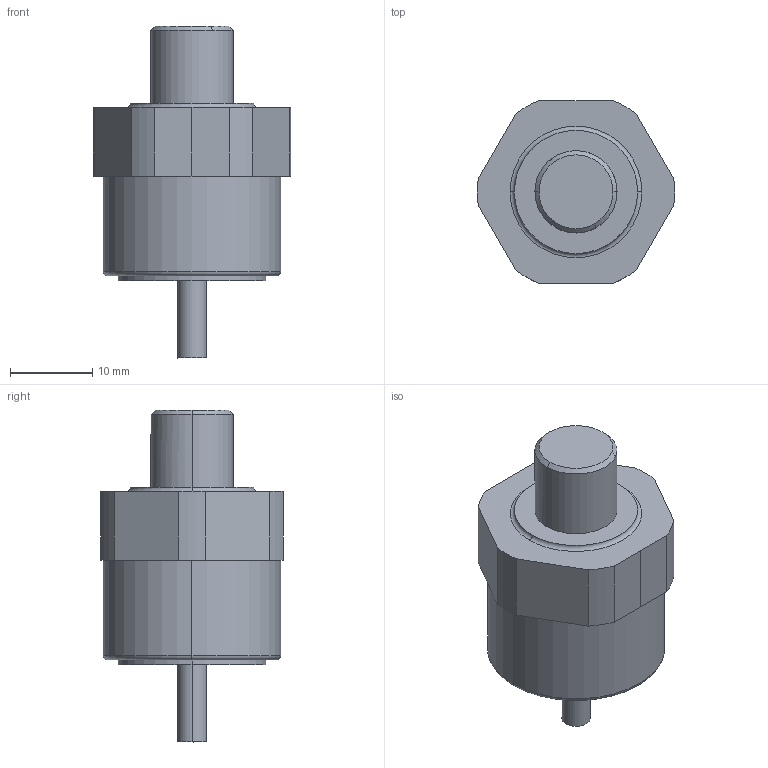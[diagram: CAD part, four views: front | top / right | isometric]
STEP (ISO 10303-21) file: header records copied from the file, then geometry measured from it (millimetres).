
FILE_DESCRIPTION(('3DEXPERIENCE STEP','CAx-IF Rec.Pracs.--- Model Styling and Organization---1.5--- 2016-08-15','CAx-IF Rec.Pracs.---Supplemental Geometry---1.0---2011-11-01','CAx-IF Rec.Pracs.--- Composite Materials ---3.4---2017-06-13','CAx-IF Rec.Pracs.---Tessellated 3D Geometry---1.0---2015-12-17'),'2;1');
FILE_NAME('\\?\D:\School\CarTech\CTU.25\Tutorials\Model\OEM\BRK_PRS_Sensor.stp','2024-09-26T02:45:08+00:00',('none'),('none'),'3DEXPERIENCE Platform3DEXPERIENCE R2024x HotFix 4.24','3DEXPERIENCE Platform STEP AP242 v3','none');
FILE_SCHEMA(('AP242_MANAGED_MODEL_BASED_3D_ENGINEERING_MIM_LF {1 0 10303 442 1 1 4}'));
Length unit declared in the file: millimetre
Products named in the file (1): Brake_pressure_sensor
Bounding box: 23.98 x 22.23 x 40.4 mm (x, y, z)
Volume: 9023.8 mm3; surface area: 2704.2 mm2
Topology: 1 solids, 1 shells, 36 faces, 83 edges, 54 vertices
Faces by surface type: plane 15, cylinder 14, torus 4, cone 3
Entity records: 978 total; most frequent: CARTESIAN_POINT 192, ORIENTED_EDGE 166, DIRECTION 128, EDGE_CURVE 83, AXIS2_PLACEMENT_3D 64, VERTEX_POINT 54, VECTOR 41, LINE 41
